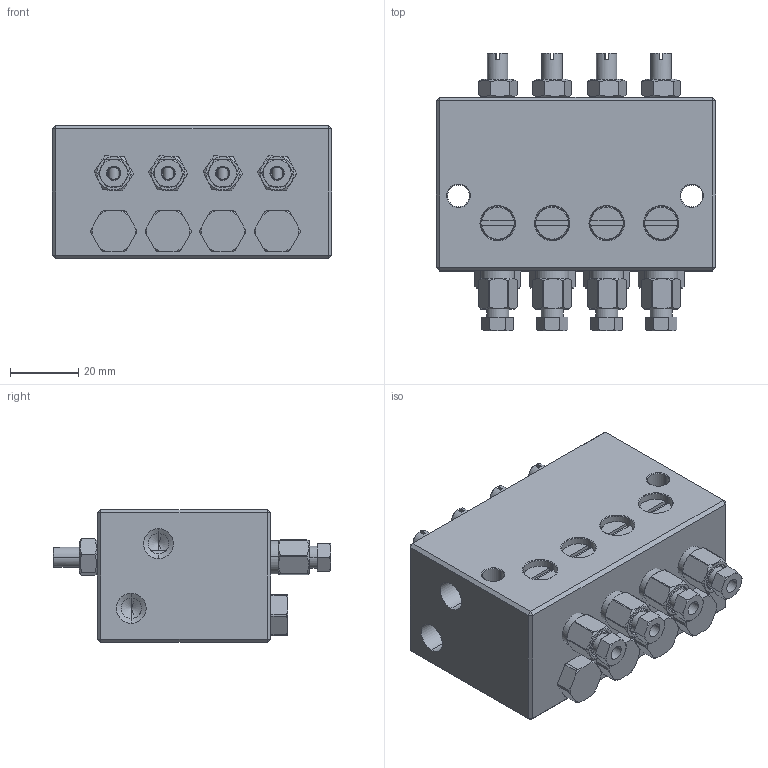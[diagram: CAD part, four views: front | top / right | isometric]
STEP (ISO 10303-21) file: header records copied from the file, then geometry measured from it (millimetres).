
FILE_DESCRIPTION (( 'STEP AP203' ), '1' );
FILE_NAME ('AO-2.STEP', '2020-04-18T07:00:36', ( '个人用户' ), ( '微软中国' ), 'SwSTEP 2.0', 'SolidWorks 2018', '' );
FILE_SCHEMA (( 'CONFIG_CONTROL_DESIGN' ));
Length unit declared in the file: millimetre
Products named in the file (16): 諾ァ覃誹裝; AO-2; 覃誹裝; 黑芛; 躇猾俖; 縐杶; 蚐ァ諉芛; 縐杶蹟譫; 苤粟銅釱; 絳砃杶; 絳砃裝; 密封圈; o-rings series a gb_GB-T 3452.1 4x1.8-A; hex nuts, style 1-grades ab gb_GB_FASTENER_NUT_SNAB1 M6-N; e rings gb_GB_CONNECTING_PIECE_RINGS_HR 3; 油气容积式分配器
Assembly tree (57 placements, depth 2):
  AO-2
    油气容积式分配器
    黑芛  x4
    絳砃裝  x4
    e rings gb_GB_CONNECTING_PIECE_RINGS_HR 3  x4
    絳砃杶  x4
    o-rings series a gb_GB-T 3452.1 4x1.8-A  x4
    躇猾俖  x4
    覃誹裝  x4
    苤粟銅釱  x4
    密封圈  x4
    諾ァ覃誹裝  x4
    hex nuts, style 1-grades ab gb_GB_FASTENER_NUT_SNAB1 M6-N  x4
    蚐ァ諉芛  x4
    縐杶蹟譫  x4
    縐杶  x4
Bounding box: 82 x 81.54 x 39 mm (x, y, z)
Volume: 157805.7 mm3; surface area: 51854.7 mm2
Topology: 57 solids, 57 shells, 1601 faces, 3625 edges, 2236 vertices
Faces by surface type: cylinder 620, cone 538, plane 419, torus 16, bspline 8
Entity records: 21279 total; most frequent: CARTESIAN_POINT 4440, DIRECTION 3207, ORIENTED_EDGE 2720, EDGE_CURVE 1360, AXIS2_PLACEMENT_3D 1324, VERTEX_POINT 841, EDGE_LOOP 701, CIRCLE 673
